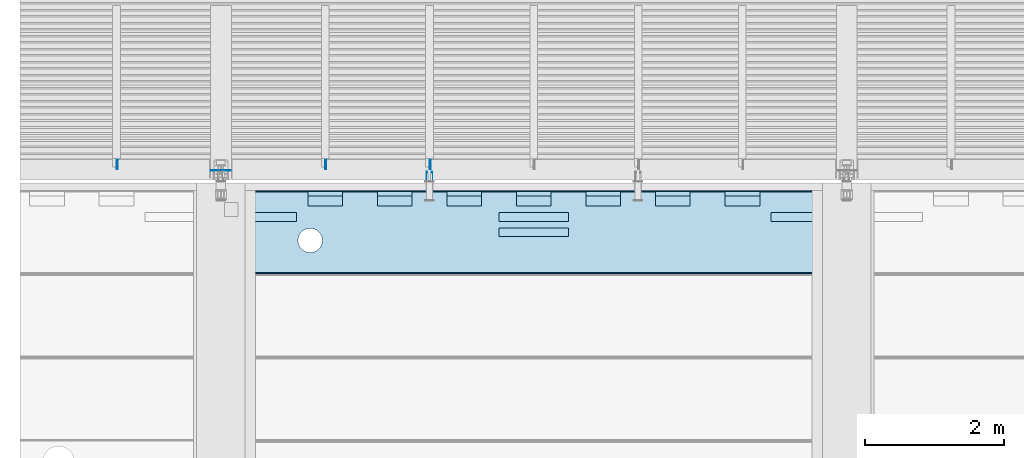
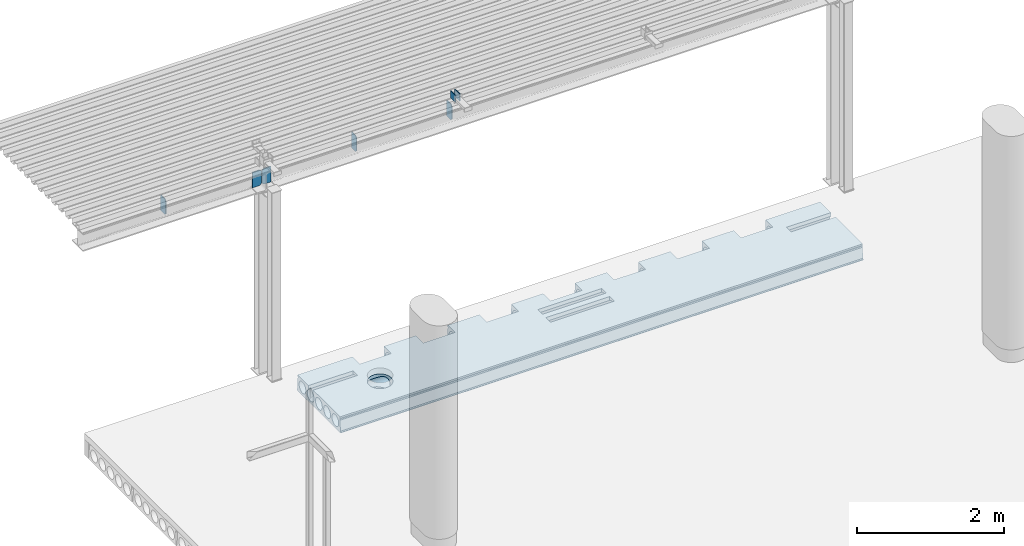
# One storey, part 14 of 34: 7 plates, 1 slab.
"""IFC2X3 building model written with IfcOpenShell, lengths in millimetres."""

from ifc_helpers import new_model, entity, si_unit, converted_unit, derived_unit, direction, frame, origin_with_axes, origin_2d_with_axis, place, context, subcontext, project, spatial, polyline, circle, outline, extrude, boolean, material, type_object, element, save


model = new_model("IFC2X3")

# Units and contexts
model_context = context("Model", 3, precision=0.01, world=frame((0.0, 4.29681676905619e-09, 0.0)), true_north=direction((4.01073788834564e-13, 1.0)))
plan_context = context("Plan", 3, precision=0.01, world=frame((0.0, 4.29681676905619e-09, 0.0)), true_north=direction((4.01073788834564e-13, 1.0)))
body_context = subcontext(model_context, "Body", "Model", "MODEL_VIEW")
ifc_project = project(units=[converted_unit("PLANEANGLEUNIT", "DEGREE", entity("IfcPositiveLengthMeasure", 0.0174532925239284), si_unit("PLANEANGLEUNIT", "RADIAN"), dimensions=[0, 0, 0, 0, 0, 0, 0]), si_unit("AREAUNIT", "SQUARE_METRE"), si_unit("LENGTHUNIT", "METRE", prefix="MILLI"), si_unit("MASSUNIT", "GRAM", prefix="KILO"), si_unit("POWERUNIT", "WATT"), si_unit("PRESSUREUNIT", "PASCAL"), si_unit("FORCEUNIT", "NEWTON", prefix="KILO"), si_unit("ELECTRICVOLTAGEUNIT", "VOLT"), si_unit("ELECTRICCURRENTUNIT", "AMPERE"), si_unit("THERMODYNAMICTEMPERATUREUNIT", "DEGREE_CELSIUS"), si_unit("TIMEUNIT", "SECOND"), si_unit("VOLUMEUNIT", "CUBIC_METRE"), derived_unit("LINEARVELOCITYUNIT", [(si_unit("LENGTHUNIT", "METRE"), 1), (si_unit("TIMEUNIT", "SECOND"), -1)]), derived_unit("VOLUMETRICFLOWRATEUNIT", [(si_unit("VOLUMEUNIT", "CUBIC_METRE"), 1), (si_unit("TIMEUNIT", "SECOND"), -1)]), derived_unit("THERMALTRANSMITTANCEUNIT", [(si_unit("POWERUNIT", "WATT"), 1), (si_unit("THERMODYNAMICTEMPERATUREUNIT", "KELVIN"), -1), (si_unit("AREAUNIT", "SQUARE_METRE"), -1)]), derived_unit("SOUNDPRESSUREUNIT", [(si_unit("PRESSUREUNIT", "PASCAL"), 1)])], contexts=[model_context, plan_context])

# Site, building, storey
site_placement = place(None, frame((0.0, -4.29681676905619e-09, 0.0), z_axis=(0.0, 0.0, 1.0), x_axis=(1.0, 0.0, 0.0)))
site = spatial("IfcSite", under=ifc_project, at=site_placement, Name="Gardermoen", CompositionType="ELEMENT")
building_placement = place(site_placement, frame((0.0, 4.29681676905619e-09, 0.0), z_axis=(0.0, 0.0, 1.0), x_axis=(1.0, 0.0, 0.0)))
building = spatial("IfcBuilding", under=site, at=building_placement, Name="TH", CompositionType="ELEMENT")
storey_placement = place(building_placement, origin_with_axes())
storey = spatial("IfcBuildingStorey", under=building, at=storey_placement, Name="F", CompositionType="ELEMENT", Elevation=0.0)

# Plates
ifc_material_1 = material(Name="STEEL/S355")
plate_type_1 = type_object("IfcPlateType", Name="PL12*140", PredefinedType="NOTDEFINED")
for number, where, z_axis, x_axis in (
    (1, (901008.949781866, 485005.495625, 213167.0), (1.0, 0.0, 0.0), (0.0, 0.707106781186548, -0.707106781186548)),
    (2, (899508.949781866, 485005.495625, 213167.0), (1.0, 0.0, 0.0), (0.0, 0.707106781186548, -0.707106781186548)),
    (3, (898005.500000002, 484988.495625, 213167.0), (0.0, -1.0, 0.0), (0.707106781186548, 0.0, -0.707106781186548)),
    (4, (896508.949781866, 485005.495625, 213167.0), (1.0, 0.0, 0.0), (0.0, 0.707106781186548, -0.707106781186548)),
    (5, (897994.500000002, 484988.495625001, 213167.0), (0.0, 1.0, 0.0), (-0.707106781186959, 0.0, -0.707106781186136)),
):
    element("IfcPlate", number, at=place(storey_placement, frame(where, z_axis=z_axis, x_axis=x_axis)), inside=storey, type_object=plate_type_1, material=ifc_material_1, Name="STÅLBJELKE", ObjectType="PL12*140", context=body_context, shape_type="SweptSolid", body=[
        extrude(outline(polyline([(0.0, 0.0), (38.1837654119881, -5.82076609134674e-11), (118.086830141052, 79.9030685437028), (-65.7609252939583, 263.750823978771), (-145.664001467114, 183.847763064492), (-145.664001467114, 145.664001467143), (0.0, 0.0)])), frame((5.82076609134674e-11, 0.0, -6.0), z_axis=(0.0, 0.0, 1.0), x_axis=(1.0, 0.0, 0.0)), (0.0, 0.0, 1.0), 12.0),
    ])
plate_type_2 = type_object("IfcPlateType", Name="PL10*120", PredefinedType="NOTDEFINED")
for number, where, z_axis, x_axis in (
    (6, (900965.000000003, 484834.999999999, 213560.00092537), (1.0, 0.0, 0.0), (0.0, 1.0, 0.0)),
    (7, (901035.000000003, 484834.999999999, 213560.00092537), (1.0, 0.0, 0.0), (0.0, 1.0, 0.0)),
):
    element("IfcPlate", number, at=place(storey_placement, frame(where, z_axis=z_axis, x_axis=x_axis)), inside=storey, type_object=plate_type_2, material=ifc_material_1, Name="STÅLSPESIAL", ObjectType="PL10*120", context=body_context, shape_type="SweptSolid", body=[
        extrude(outline(polyline([(0.0, 0.0), (137.0, 2.91038304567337e-11), (137.0, 120.0), (0.0, 120.0), (0.0, 0.0)])), frame((0.0, 0.0, -5.0), z_axis=(0.0, 0.0, 1.0), x_axis=(1.0, 0.0, 0.0)), (0.0, 0.0, 1.0), 10.0),
    ])

# Slab
ifc_material_2 = material(Name="CONCRETE/C45/55")
slab_type = type_object("IfcSlabType", Name="HD265", PredefinedType="NOTDEFINED")
slab_placement = place(storey_placement, frame((898389.999766, 484099.989724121, 209897.5), z_axis=(0.0, 0.0, 1.0), x_axis=(1.0, 0.0, 0.0)))
solid = boolean("DIFFERENCE", boolean("DIFFERENCE", boolean("DIFFERENCE", boolean("DIFFERENCE", boolean("DIFFERENCE", boolean("DIFFERENCE", boolean("DIFFERENCE", boolean("DIFFERENCE", extrude(outline(polyline([(-583.380004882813, -132.5), (-600.0, -122.5), (-600.0, -112.5), (-585.0, -102.5), (-577.5, 77.5), (-570.0, 92.5), (-577.5, 107.5), (-577.5, 132.5), (577.5, 132.5), (577.5, 107.5), (570.0, 92.5), (577.5, 77.5), (585.0, -102.5), (600.0, -112.5), (600.0, -122.5), (583.380004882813, -132.5), (-583.380004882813, -132.5)]), holes=[polyline([(-539.238420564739, 15.2249996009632), (-540.184065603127, 7.63858945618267), (-540.5, 0.0), (-540.184065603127, -7.63858945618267), (-539.238420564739, -15.2249996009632), (-537.669524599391, -22.7074075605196), (-535.488094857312, -30.0347009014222), (-532.709032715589, -37.1568267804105), (-529.351321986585, -44.0251338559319), (-525.437899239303, -50.5927046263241), (-520.995497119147, -56.8146759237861), (-516.05446173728, -62.6485453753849), (-510.648545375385, -68.0544617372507), (-504.814675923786, -72.9954971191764), (-498.592704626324, -77.437899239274), (-492.025133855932, -81.3513219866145), (-485.15682678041, -84.7090327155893), (-478.034700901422, -87.4880948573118), (-470.707407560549, -89.6695245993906), (-463.224999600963, -91.2384205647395), (-455.638589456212, -92.1840656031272), (-448.0, -92.5), (-440.361410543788, -92.1840656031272), (-432.775000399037, -91.2384205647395), (-425.292592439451, -89.6695245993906), (-417.965299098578, -87.4880948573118), (-410.84317321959, -84.7090327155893), (-403.974866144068, -81.3513219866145), (-397.407295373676, -77.437899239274), (-391.185324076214, -72.9954971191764), (-385.351454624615, -68.0544617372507), (-379.94553826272, -62.6485453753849), (-375.004502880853, -56.8146759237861), (-370.562100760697, -50.5927046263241), (-366.648678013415, -44.0251338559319), (-363.290967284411, -37.1568267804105), (-360.511905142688, -30.0347009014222), (-358.330475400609, -22.7074075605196), (-356.761579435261, -15.2249996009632), (-355.815934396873, -7.63858945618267), (-355.5, 0.0), (-355.815934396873, 7.63858945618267), (-356.761579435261, 15.2249996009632), (-358.330475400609, 22.7074075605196), (-360.511905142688, 30.0347009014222), (-363.290967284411, 37.1568267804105), (-366.648678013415, 44.0251338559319), (-370.562100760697, 50.5927046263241), (-375.004502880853, 56.8146759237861), (-379.94553826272, 62.6485453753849), (-385.351454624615, 68.0544617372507), (-391.185324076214, 72.9954971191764), (-397.407295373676, 77.437899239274), (-403.974866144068, 81.3513219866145), (-410.84317321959, 84.7090327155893), (-417.965299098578, 87.4880948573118), (-425.292592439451, 89.6695245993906), (-432.775000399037, 91.2384205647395), (-440.361410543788, 92.1840656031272), (-448.0, 92.5), (-455.638589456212, 92.1840656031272), (-463.224999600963, 91.2384205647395), (-470.707407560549, 89.6695245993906), (-478.034700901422, 87.4880948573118), (-485.15682678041, 84.7090327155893), (-492.025133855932, 81.3513219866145), (-498.592704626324, 77.437899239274), (-504.814675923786, 72.9954971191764), (-510.648545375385, 68.0544617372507), (-516.05446173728, 62.6485453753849), (-520.995497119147, 56.8146759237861), (-525.437899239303, 50.5927046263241), (-529.351321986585, 44.0251338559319), (-532.709032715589, 37.1568267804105), (-535.488094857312, 30.0347009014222), (-537.669524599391, 22.7074075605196), (-539.238420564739, 15.2249996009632)]), polyline([(-315.238420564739, 15.2249996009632), (-316.184065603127, 7.63858945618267), (-316.5, 0.0), (-316.184065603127, -7.63858945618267), (-315.238420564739, -15.2249996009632), (-313.669524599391, -22.7074075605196), (-311.488094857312, -30.0347009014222), (-308.709032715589, -37.1568267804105), (-305.351321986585, -44.0251338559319), (-301.437899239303, -50.5927046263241), (-296.995497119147, -56.8146759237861), (-292.05446173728, -62.6485453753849), (-286.648545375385, -68.0544617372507), (-280.814675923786, -72.9954971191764), (-274.592704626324, -77.437899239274), (-268.025133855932, -81.3513219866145), (-261.15682678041, -84.7090327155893), (-254.034700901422, -87.4880948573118), (-246.707407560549, -89.6695245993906), (-239.224999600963, -91.2384205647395), (-231.638589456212, -92.1840656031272), (-224.0, -92.5), (-216.361410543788, -92.1840656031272), (-208.775000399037, -91.2384205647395), (-201.292592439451, -89.6695245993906), (-193.965299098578, -87.4880948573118), (-186.84317321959, -84.7090327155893), (-179.974866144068, -81.3513219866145), (-173.407295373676, -77.437899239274), (-167.185324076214, -72.9954971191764), (-161.351454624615, -68.0544617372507), (-155.94553826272, -62.6485453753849), (-151.004502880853, -56.8146759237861), (-146.562100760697, -50.5927046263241), (-142.648678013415, -44.0251338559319), (-139.290967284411, -37.1568267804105), (-136.511905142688, -30.0347009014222), (-134.330475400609, -22.7074075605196), (-132.761579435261, -15.2249996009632), (-131.815934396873, -7.63858945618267), (-131.5, 0.0), (-131.815934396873, 7.63858945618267), (-132.761579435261, 15.2249996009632), (-134.330475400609, 22.7074075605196), (-136.511905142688, 30.0347009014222), (-139.290967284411, 37.1568267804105), (-142.648678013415, 44.0251338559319), (-146.562100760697, 50.5927046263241), (-151.004502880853, 56.8146759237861), (-155.94553826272, 62.6485453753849), (-161.351454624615, 68.0544617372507), (-167.185324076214, 72.9954971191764), (-173.407295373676, 77.437899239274), (-179.974866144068, 81.3513219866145), (-186.84317321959, 84.7090327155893), (-193.965299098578, 87.4880948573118), (-201.292592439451, 89.6695245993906), (-208.775000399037, 91.2384205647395), (-216.361410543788, 92.1840656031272), (-224.0, 92.5), (-231.638589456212, 92.1840656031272), (-239.224999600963, 91.2384205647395), (-246.707407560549, 89.6695245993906), (-254.034700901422, 87.4880948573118), (-261.15682678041, 84.7090327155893), (-268.025133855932, 81.3513219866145), (-274.592704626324, 77.437899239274), (-280.814675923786, 72.9954971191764), (-286.648545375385, 68.0544617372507), (-292.05446173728, 62.6485453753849), (-296.995497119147, 56.8146759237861), (-301.437899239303, 50.5927046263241), (-305.351321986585, 44.0251338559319), (-308.709032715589, 37.1568267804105), (-311.488094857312, 30.0347009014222), (-313.669524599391, 22.7074075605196), (-315.238420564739, 15.2249996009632)]), polyline([(-91.2384205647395, 15.2249996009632), (-92.1840656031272, 7.63858945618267), (-92.5, 0.0), (-92.1840656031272, -7.63858945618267), (-91.2384205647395, -15.2249996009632), (-89.6695245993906, -22.7074075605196), (-87.4880948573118, -30.0347009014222), (-84.7090327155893, -37.1568267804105), (-81.3513219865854, -44.0251338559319), (-77.4378992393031, -50.5927046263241), (-72.9954971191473, -56.8146759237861), (-68.0544617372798, -62.6485453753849), (-62.6485453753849, -68.0544617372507), (-56.8146759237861, -72.9954971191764), (-50.5927046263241, -77.437899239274), (-44.0251338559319, -81.3513219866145), (-37.1568267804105, -84.7090327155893), (-30.0347009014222, -87.4880948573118), (-22.7074075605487, -89.6695245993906), (-15.2249996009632, -91.2384205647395), (-7.63858945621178, -92.1840656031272), (0.0, -92.5), (7.63858945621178, -92.1840656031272), (15.2249996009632, -91.2384205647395), (22.7074075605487, -89.6695245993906), (30.0347009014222, -87.4880948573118), (37.1568267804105, -84.7090327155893), (44.0251338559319, -81.3513219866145), (50.5927046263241, -77.437899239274), (56.8146759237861, -72.9954971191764), (62.6485453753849, -68.0544617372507), (68.0544617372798, -62.6485453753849), (72.9954971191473, -56.8146759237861), (77.4378992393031, -50.5927046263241), (81.3513219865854, -44.0251338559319), (84.7090327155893, -37.1568267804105), (87.4880948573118, -30.0347009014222), (89.6695245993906, -22.7074075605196), (91.2384205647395, -15.2249996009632), (92.1840656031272, -7.63858945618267), (92.5, 0.0), (92.1840656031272, 7.63858945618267), (91.2384205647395, 15.2249996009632), (89.6695245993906, 22.7074075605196), (87.4880948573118, 30.0347009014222), (84.7090327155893, 37.1568267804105), (81.3513219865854, 44.0251338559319), (77.4378992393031, 50.5927046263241), (72.9954971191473, 56.8146759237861), (68.0544617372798, 62.6485453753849), (62.6485453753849, 68.0544617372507), (56.8146759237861, 72.9954971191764), (50.5927046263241, 77.437899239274), (44.0251338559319, 81.3513219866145), (37.1568267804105, 84.7090327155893), (30.0347009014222, 87.4880948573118), (22.7074075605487, 89.6695245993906), (15.2249996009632, 91.2384205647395), (7.63858945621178, 92.1840656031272), (0.0, 92.5), (-7.63858945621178, 92.1840656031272), (-15.2249996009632, 91.2384205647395), (-22.7074075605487, 89.6695245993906), (-30.0347009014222, 87.4880948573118), (-37.1568267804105, 84.7090327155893), (-44.0251338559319, 81.3513219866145), (-50.5927046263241, 77.437899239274), (-56.8146759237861, 72.9954971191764), (-62.6485453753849, 68.0544617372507), (-68.0544617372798, 62.6485453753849), (-72.9954971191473, 56.8146759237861), (-77.4378992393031, 50.5927046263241), (-81.3513219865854, 44.0251338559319), (-84.7090327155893, 37.1568267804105), (-87.4880948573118, 30.0347009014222), (-89.6695245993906, 22.7074075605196), (-91.2384205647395, 15.2249996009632)]), polyline([(132.761579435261, 15.2249996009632), (131.815934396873, 7.63858945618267), (131.5, 0.0), (131.815934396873, -7.63858945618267), (132.761579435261, -15.2249996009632), (134.330475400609, -22.7074075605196), (136.511905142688, -30.0347009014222), (139.290967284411, -37.1568267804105), (142.648678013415, -44.0251338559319), (146.562100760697, -50.5927046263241), (151.004502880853, -56.8146759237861), (155.94553826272, -62.6485453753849), (161.351454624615, -68.0544617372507), (167.185324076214, -72.9954971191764), (173.407295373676, -77.437899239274), (179.974866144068, -81.3513219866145), (186.84317321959, -84.7090327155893), (193.965299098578, -87.4880948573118), (201.292592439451, -89.6695245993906), (208.775000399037, -91.2384205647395), (216.361410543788, -92.1840656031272), (224.0, -92.5), (231.638589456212, -92.1840656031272), (239.224999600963, -91.2384205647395), (246.707407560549, -89.6695245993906), (254.034700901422, -87.4880948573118), (261.15682678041, -84.7090327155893), (268.025133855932, -81.3513219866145), (274.592704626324, -77.437899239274), (280.814675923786, -72.9954971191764), (286.648545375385, -68.0544617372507), (292.05446173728, -62.6485453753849), (296.995497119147, -56.8146759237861), (301.437899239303, -50.5927046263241), (305.351321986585, -44.0251338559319), (308.709032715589, -37.1568267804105), (311.488094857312, -30.0347009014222), (313.669524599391, -22.7074075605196), (315.238420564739, -15.2249996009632), (316.184065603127, -7.63858945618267), (316.5, 0.0), (316.184065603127, 7.63858945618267), (315.238420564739, 15.2249996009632), (313.669524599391, 22.7074075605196), (311.488094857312, 30.0347009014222), (308.709032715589, 37.1568267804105), (305.351321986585, 44.0251338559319), (301.437899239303, 50.5927046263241), (296.995497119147, 56.8146759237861), (292.05446173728, 62.6485453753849), (286.648545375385, 68.0544617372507), (280.814675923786, 72.9954971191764), (274.592704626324, 77.437899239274), (268.025133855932, 81.3513219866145), (261.15682678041, 84.7090327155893), (254.034700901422, 87.4880948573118), (246.707407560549, 89.6695245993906), (239.224999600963, 91.2384205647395), (231.638589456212, 92.1840656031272), (224.0, 92.5), (216.361410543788, 92.1840656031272), (208.775000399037, 91.2384205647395), (201.292592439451, 89.6695245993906), (193.965299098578, 87.4880948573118), (186.84317321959, 84.7090327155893), (179.974866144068, 81.3513219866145), (173.407295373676, 77.437899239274), (167.185324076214, 72.9954971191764), (161.351454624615, 68.0544617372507), (155.94553826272, 62.6485453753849), (151.004502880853, 56.8146759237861), (146.562100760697, 50.5927046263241), (142.648678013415, 44.0251338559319), (139.290967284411, 37.1568267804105), (136.511905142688, 30.0347009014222), (134.330475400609, 22.7074075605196), (132.761579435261, 15.2249996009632)]), polyline([(356.761579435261, 15.2249996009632), (355.815934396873, 7.63858945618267), (355.5, 0.0), (355.815934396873, -7.63858945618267), (356.761579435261, -15.2249996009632), (358.330475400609, -22.7074075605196), (360.511905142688, -30.0347009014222), (363.290967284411, -37.1568267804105), (366.648678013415, -44.0251338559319), (370.562100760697, -50.5927046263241), (375.004502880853, -56.8146759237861), (379.94553826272, -62.6485453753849), (385.351454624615, -68.0544617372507), (391.185324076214, -72.9954971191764), (397.407295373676, -77.437899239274), (403.974866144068, -81.3513219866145), (410.84317321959, -84.7090327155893), (417.965299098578, -87.4880948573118), (425.292592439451, -89.6695245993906), (432.775000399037, -91.2384205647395), (440.361410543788, -92.1840656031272), (448.0, -92.5), (455.638589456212, -92.1840656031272), (463.224999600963, -91.2384205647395), (470.707407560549, -89.6695245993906), (478.034700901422, -87.4880948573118), (485.15682678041, -84.7090327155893), (492.025133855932, -81.3513219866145), (498.592704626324, -77.437899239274), (504.814675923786, -72.9954971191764), (510.648545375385, -68.0544617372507), (516.05446173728, -62.6485453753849), (520.995497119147, -56.8146759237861), (525.437899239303, -50.5927046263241), (529.351321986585, -44.0251338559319), (532.709032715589, -37.1568267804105), (535.488094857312, -30.0347009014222), (537.669524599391, -22.7074075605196), (539.238420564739, -15.2249996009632), (540.184065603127, -7.63858945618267), (540.5, 0.0), (540.184065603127, 7.63858945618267), (539.238420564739, 15.2249996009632), (537.669524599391, 22.7074075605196), (535.488094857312, 30.0347009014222), (532.709032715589, 37.1568267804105), (529.351321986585, 44.0251338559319), (525.437899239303, 50.5927046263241), (520.995497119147, 56.8146759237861), (516.05446173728, 62.6485453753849), (510.648545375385, 68.0544617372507), (504.814675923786, 72.9954971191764), (498.592704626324, 77.437899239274), (492.025133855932, 81.3513219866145), (485.15682678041, 84.7090327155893), (478.034700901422, 87.4880948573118), (470.707407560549, 89.6695245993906), (463.224999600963, 91.2384205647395), (455.638589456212, 92.1840656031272), (448.0, 92.5), (440.361410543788, 92.1840656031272), (432.775000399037, 91.2384205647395), (425.292592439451, 89.6695245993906), (417.965299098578, 87.4880948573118), (410.84317321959, 84.7090327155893), (403.974866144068, 81.3513219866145), (397.407295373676, 77.437899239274), (391.185324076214, 72.9954971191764), (385.351454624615, 68.0544617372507), (379.94553826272, 62.6485453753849), (375.004502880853, 56.8146759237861), (370.562100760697, 50.5927046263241), (366.648678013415, 44.0251338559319), (363.290967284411, 37.1568267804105), (360.511905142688, 30.0347009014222), (358.330475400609, 22.7074075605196), (356.761579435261, 15.2249996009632)])]), frame((8220.0, 0.0, 0.0), z_axis=(-1.0, 0.0, 6.61744490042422e-24), x_axis=(0.0, -1.0, 0.0)), (0.0, 0.0, 1.0), 8220.0), extrude(circle(Radius=175.0, at=origin_2d_with_axis()), frame((895.229999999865, -116.709724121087, 402.5), z_axis=(-3.99999553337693e-08, 0.0, -0.999999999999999), x_axis=(-1.0, 0.0, 6.61744490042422e-24)), (0.0, 0.0, 1.0), 700.0)), extrude(outline(polyline([(0.0, 0.0), (125.0, 0.0), (125.0, 1000.0), (-2.91038304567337e-10, 1000.0), (0.0, 0.0)])), frame((3610.02288452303, 62.5036761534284, -17.5), z_axis=(0.0, 0.0, 1.0), x_axis=(0.0, -1.0, 0.0)), (0.0, 0.0, 1.0), 150.0)), extrude(outline(polyline([(0.0, 0.0), (125.0, 0.0), (125.0, 1000.0), (-2.91038304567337e-10, 1000.0), (0.0, 0.0)])), frame((3610.02288452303, 282.504896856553, -17.5), z_axis=(0.0, 0.0, 1.0), x_axis=(0.0, -1.0, 0.0)), (0.0, 0.0, 1.0), 150.0)), extrude(outline(polyline([(0.0, 0.0), (125.0, 0.0), (125.0, 700.019226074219), (1.16415321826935e-10, 700.019226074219), (0.0, 0.0)])), frame((7519.98124292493, 282.506422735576, -17.5), z_axis=(0.0, 0.0, 1.0), x_axis=(0.0, -1.0, 0.0)), (0.0, 0.0, 1.0), 150.0)), extrude(outline(polyline([(0.0, 0.0), (225.0, 0.0), (225.0, 500.0), (5.82076609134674e-10, 500.0), (0.0, 0.0)])), frame((6860.02335352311, 602.507643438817, -57.5), z_axis=(0.0, 0.0, 1.0), x_axis=(0.0, -1.0, 0.0)), (0.0, 0.0, 1.0), 190.0)), extrude(outline(polyline([(0.0, 0.0), (225.0, 0.0), (225.0, 500.0), (5.82076609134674e-10, 500.0), (0.0, 0.0)])), frame((5860.02335352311, 602.507643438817, -57.5), z_axis=(0.0, 0.0, 1.0), x_axis=(0.0, -1.0, 0.0)), (0.0, 0.0, 1.0), 190.0)), extrude(outline(polyline([(0.0, 0.0), (225.0, 0.0), (225.0, 500.0), (5.82076609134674e-10, 500.0), (0.0, 0.0)])), frame((4860.02335352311, 602.507643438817, -57.5), z_axis=(0.0, 0.0, 1.0), x_axis=(0.0, -1.0, 0.0)), (0.0, 0.0, 1.0), 190.0)), extrude(outline(polyline([(0.0, 0.0), (225.0, 0.0), (225.0, 500.0), (5.82076609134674e-10, 500.0), (0.0, 0.0)])), frame((4860.02335352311, 602.507643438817, -57.5), z_axis=(0.0, 0.0, 1.0), x_axis=(0.0, -1.0, 0.0)), (0.0, 0.0, 1.0), 190.0))
element("IfcSlab", 8, at=slab_placement, inside=storey, type_object=slab_type, material=ifc_material_2, Name="HULLDEKKE", ObjectType="HD265", PredefinedType="FLOOR", context=body_context, shape_type="CSG", body=[
    boolean("DIFFERENCE", boolean("DIFFERENCE", boolean("DIFFERENCE", boolean("DIFFERENCE", boolean("DIFFERENCE", solid, extrude(outline(polyline([(0.0, 0.0), (225.0, 0.0), (225.0, 500.0), (5.82076609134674e-10, 500.0), (0.0, 0.0)])), frame((3860.02335352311, 602.507643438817, -57.5), z_axis=(0.0, 0.0, 1.0), x_axis=(0.0, -1.0, 0.0)), (0.0, 0.0, 1.0), 190.0)), extrude(outline(polyline([(0.0, 0.0), (225.0, 0.0), (225.0, 500.0), (5.82076609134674e-10, 500.0), (0.0, 0.0)])), frame((2860.02335352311, 602.507643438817, -57.5), z_axis=(0.0, 0.0, 1.0), x_axis=(0.0, -1.0, 0.0)), (0.0, 0.0, 1.0), 190.0)), extrude(outline(polyline([(0.0, 0.0), (225.0, 0.0), (225.0, 500.0), (5.82076609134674e-10, 500.0), (0.0, 0.0)])), frame((1860.02335352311, 602.507643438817, -57.5), z_axis=(0.0, 0.0, 1.0), x_axis=(0.0, -1.0, 0.0)), (0.0, 0.0, 1.0), 190.0)), extrude(outline(polyline([(0.0, 0.0), (125.0, 0.0), (125.0, 700.019226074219), (1.16415321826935e-10, 700.019226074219), (0.0, 0.0)])), frame((0.000469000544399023, 282.506422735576, -17.5), z_axis=(0.0, 0.0, 1.0), x_axis=(0.0, -1.0, 0.0)), (0.0, 0.0, 1.0), 150.0)), extrude(outline(polyline([(0.0, 0.0), (225.0, 0.0), (225.0, 500.0), (5.82076609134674e-10, 500.0), (0.0, 0.0)])), frame((860.023353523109, 602.507643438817, -57.5), z_axis=(0.0, 0.0, 1.0), x_axis=(0.0, -1.0, 0.0)), (0.0, 0.0, 1.0), 190.0)),
])

save(model, "model.ifc")
